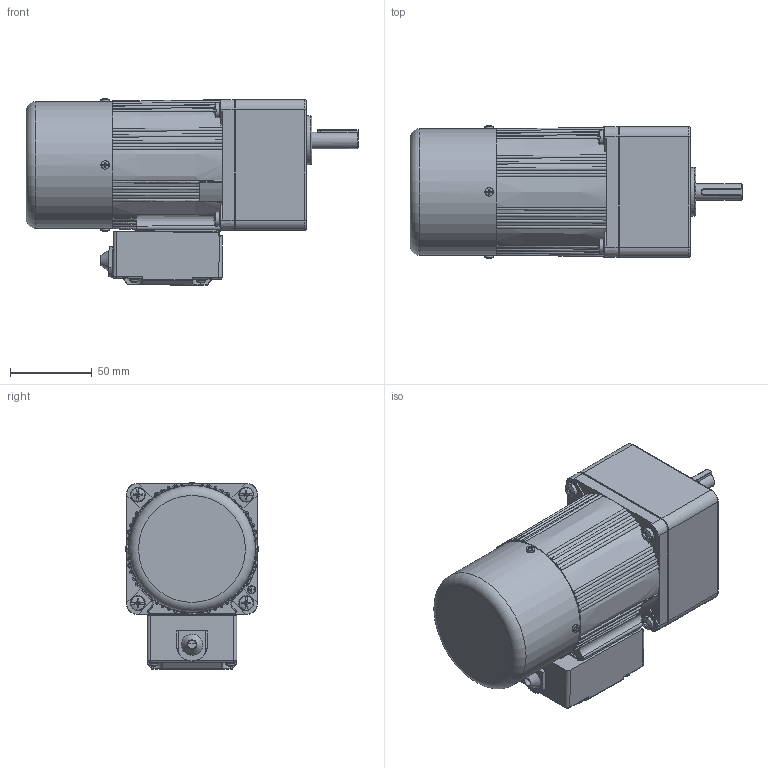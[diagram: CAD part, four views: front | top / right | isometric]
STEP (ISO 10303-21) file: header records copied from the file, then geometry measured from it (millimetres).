
FILE_DESCRIPTION(/* description */ (''),/* implementation_level */ '2;1');
FILE_NAME(/* name */ '4RK25-40GNC·TM-4GN25-750K-C·10L长款接线盒.stp',/* time_stamp */ '2025-04-13T15:30:53+08:00',/* author */ (''),/* organization */ (''),/* preprocessor_version */ 'ST-DEVELOPER v18.102',/* originating_system */ 'SIEMENS PLM Software NX 2027',/* authorisation */ '');
FILE_SCHEMA (('AP203_CONFIGURATION_CONTROLLED_3D_DESIGN_OF_MECHANICAL_PARTS_AND_ASSEMBLIES_MIM_LF { 1 0 10303 403 2 1 2}'));
Products named in the file (1): 4RK25-40CC·M-4GN25-750K-C·10L_stp_objects
Bounding box: 203.5 x 81.3 x 114.48 mm (x, y, z)
Volume: 949744.4 mm3; surface area: 125023.6 mm2
Topology: 8 solids, 8 shells, 1519 faces, 4016 edges, 2578 vertices
Faces by surface type: plane 614, cylinder 379, bspline 303, torus 96, cone 87, sphere 40
Full cylindrical faces by diameter (mm): 2.2 x2, 2.9 x4, 3.5 x2, 4 x5, 4.2 x9, 4.4 x1, 4.6 x4, 4.8 x1, 5 x5, 5.1 x4, 5.3 x4, 5.6 x4, 6 x6, 6.5 x4, 7 x1, 8 x1, 8.2 x1, 8.5 x4, 9 x4, 10 x3, 10.5 x1, 19 x1, 26 x1, 30 x1, 56 x1, 67 x1, 73 x1, 75 x2, 77.5 x1
Entity records: 53687 total; most frequent: CARTESIAN_POINT 19661, ORIENTED_EDGE 7530, DIRECTION 5945, EDGE_CURVE 3765, VERTEX_POINT 2497, AXIS2_PLACEMENT_3D 2267, EDGE_LOOP 1786, ADVANCED_FACE 1516
